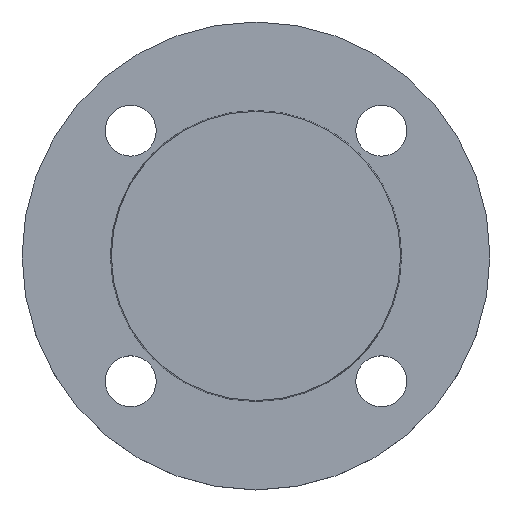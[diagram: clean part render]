
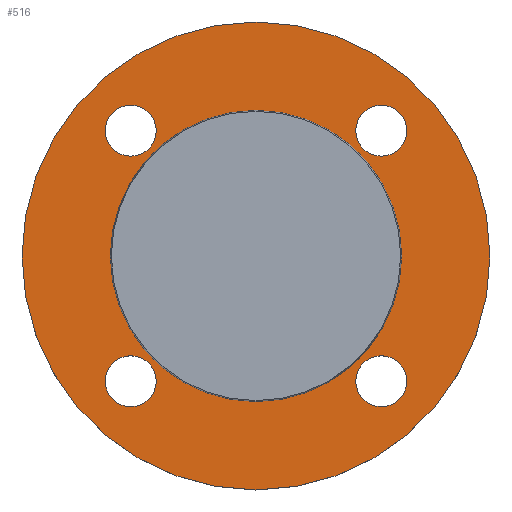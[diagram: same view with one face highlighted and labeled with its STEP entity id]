
A CAD part, top view. The second image highlights one B-rep face of the part: STEP entity #516.
In plain terms, the highlighted planar face has unit normal (0, 0, 1).
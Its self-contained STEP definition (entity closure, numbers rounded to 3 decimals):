
#9 = EDGE_CURVE ( 'NONE', #483, #456, #244, .T. ) ;
#19 = CARTESIAN_POINT ( 'NONE',  ( 53.194, 44.194, -2. ) ) ;
#20 = CARTESIAN_POINT ( 'NONE',  ( -51.353, 0., -2. ) ) ;
#22 = CARTESIAN_POINT ( 'NONE',  ( 51.353, 0., -2. ) ) ;
#24 = CARTESIAN_POINT ( 'NONE',  ( -35.194, 44.194, -2. ) ) ;
#27 = CARTESIAN_POINT ( 'NONE',  ( -35.194, -44.194, -2. ) ) ;
#35 = CARTESIAN_POINT ( 'NONE',  ( -53.194, 44.194, -2. ) ) ;
#43 = DIRECTION ( 'NONE',  ( -1., 0., 0. ) ) ;
#44 = CIRCLE ( 'NONE', #105, 51.353 ) ;
#45 = DIRECTION ( 'NONE',  ( 0., 0., -1. ) ) ;
#48 = CARTESIAN_POINT ( 'NONE',  ( 0., 0., -2. ) ) ;
#53 = EDGE_CURVE ( 'NONE', #246, #333, #390, .T. ) ;
#74 = DIRECTION ( 'NONE',  ( 1., 0., 0. ) ) ;
#77 = DIRECTION ( 'NONE',  ( 0., 0., -1. ) ) ;
#78 = CARTESIAN_POINT ( 'NONE',  ( -44.194, -44.194, -2. ) ) ;
#86 = DIRECTION ( 'NONE',  ( 1., 0., 0. ) ) ;
#87 = AXIS2_PLACEMENT_3D ( 'NONE', #214, #213, #212 ) ;
#88 = DIRECTION ( 'NONE',  ( 0., 0., -1. ) ) ;
#89 = CARTESIAN_POINT ( 'NONE',  ( 44.194, -44.194, -2. ) ) ;
#90 = DIRECTION ( 'NONE',  ( -1., 0., 0. ) ) ;
#92 = DIRECTION ( 'NONE',  ( 0., 0., -1. ) ) ;
#93 = CARTESIAN_POINT ( 'NONE',  ( 0., 0., -2. ) ) ;
#100 = CARTESIAN_POINT ( 'NONE',  ( 35.194, -44.194, -2. ) ) ;
#105 = AXIS2_PLACEMENT_3D ( 'NONE', #154, #149, #148 ) ;
#107 = AXIS2_PLACEMENT_3D ( 'NONE', #179, #178, #176 ) ;
#115 = DIRECTION ( 'NONE',  ( 1., 0., 0. ) ) ;
#116 = DIRECTION ( 'NONE',  ( 0., 0., -1. ) ) ;
#117 = CARTESIAN_POINT ( 'NONE',  ( -44.194, 44.194, -2. ) ) ;
#128 = CIRCLE ( 'NONE', #430, 9. ) ;
#141 = CIRCLE ( 'NONE', #236, 9. ) ;
#142 = DIRECTION ( 'NONE',  ( 1., 0., 0. ) ) ;
#144 = DIRECTION ( 'NONE',  ( 0., 0., -1. ) ) ;
#145 = EDGE_CURVE ( 'NONE', #257, #248, #330, .T. ) ;
#146 = CARTESIAN_POINT ( 'NONE',  ( 44.194, 44.194, -2. ) ) ;
#148 = DIRECTION ( 'NONE',  ( -1., 0., 0. ) ) ;
#149 = DIRECTION ( 'NONE',  ( 0., 0., -1. ) ) ;
#154 = CARTESIAN_POINT ( 'NONE',  ( 0., 0., -2. ) ) ;
#161 = EDGE_CURVE ( 'NONE', #474, #249, #141, .T. ) ;
#162 = CARTESIAN_POINT ( 'NONE',  ( 82.5, 0., -2. ) ) ;
#166 = CARTESIAN_POINT ( 'NONE',  ( 35.194, 44.194, -2. ) ) ;
#170 = CIRCLE ( 'NONE', #502, 9. ) ;
#171 = CARTESIAN_POINT ( 'NONE',  ( -53.194, -44.194, -2. ) ) ;
#173 = CARTESIAN_POINT ( 'NONE',  ( -82.5, 0., -2. ) ) ;
#174 = CARTESIAN_POINT ( 'NONE',  ( 53.194, -44.194, -2. ) ) ;
#176 = DIRECTION ( 'NONE',  ( 1., 0., 0. ) ) ;
#178 = DIRECTION ( 'NONE',  ( 0., 0., -1. ) ) ;
#179 = CARTESIAN_POINT ( 'NONE',  ( 44.194, 44.194, -2. ) ) ;
#189 = CIRCLE ( 'NONE', #397, 9. ) ;
#206 = DIRECTION ( 'NONE',  ( 1., 0., 0. ) ) ;
#207 = DIRECTION ( 'NONE',  ( 0., 0., -1. ) ) ;
#208 = CARTESIAN_POINT ( 'NONE',  ( -44.194, -44.194, -2. ) ) ;
#212 = DIRECTION ( 'NONE',  ( -1., 0., 0. ) ) ;
#213 = DIRECTION ( 'NONE',  ( 0., 0., -1. ) ) ;
#214 = CARTESIAN_POINT ( 'NONE',  ( 0., 0., -2. ) ) ;
#223 = EDGE_CURVE ( 'NONE', #492, #253, #420, .T. ) ;
#236 = AXIS2_PLACEMENT_3D ( 'NONE', #208, #207, #206 ) ;
#243 = DIRECTION ( 'NONE',  ( 1., 0., 0. ) ) ;
#244 = CIRCLE ( 'NONE', #419, 9. ) ;
#246 = VERTEX_POINT ( 'NONE', #174 ) ;
#247 = DIRECTION ( 'NONE',  ( 0., 0., -1. ) ) ;
#248 = VERTEX_POINT ( 'NONE', #173 ) ;
#249 = VERTEX_POINT ( 'NONE', #171 ) ;
#253 = VERTEX_POINT ( 'NONE', #166 ) ;
#257 = VERTEX_POINT ( 'NONE', #162 ) ;
#261 = CARTESIAN_POINT ( 'NONE',  ( 44.194, -44.194, -2. ) ) ;
#264 = EDGE_CURVE ( 'NONE', #487, #486, #44, .T. ) ;
#271 = EDGE_CURVE ( 'NONE', #253, #492, #170, .T. ) ;
#285 = DIRECTION ( 'NONE',  ( 1., 0., 0. ) ) ;
#287 = DIRECTION ( 'NONE',  ( 0., 0., -1. ) ) ;
#288 = CARTESIAN_POINT ( 'NONE',  ( -44.194, 44.194, -2. ) ) ;
#308 = EDGE_CURVE ( 'NONE', #456, #483, #189, .T. ) ;
#314 = EDGE_LOOP ( 'NONE', ( #455, #428 ) ) ;
#323 = EDGE_LOOP ( 'NONE', ( #436, #432 ) ) ;
#324 = EDGE_LOOP ( 'NONE', ( #437, #442 ) ) ;
#329 = EDGE_LOOP ( 'NONE', ( #435, #433 ) ) ;
#330 = CIRCLE ( 'NONE', #87, 82.5 ) ;
#331 = EDGE_LOOP ( 'NONE', ( #429, #431 ) ) ;
#333 = VERTEX_POINT ( 'NONE', #100 ) ;
#338 = EDGE_LOOP ( 'NONE', ( #443, #446 ) ) ;
#339 = CIRCLE ( 'NONE', #373, 9. ) ;
#344 = FACE_BOUND ( 'NONE', #331, .T. ) ;
#346 = EDGE_CURVE ( 'NONE', #248, #257, #402, .T. ) ;
#358 = EDGE_CURVE ( 'NONE', #333, #246, #128, .T. ) ;
#359 = FACE_BOUND ( 'NONE', #329, .T. ) ;
#365 = FACE_BOUND ( 'NONE', #314, .T. ) ;
#372 = DIRECTION ( 'NONE',  ( 1., 0., 0. ) ) ;
#373 = AXIS2_PLACEMENT_3D ( 'NONE', #78, #77, #74 ) ;
#374 = PLANE ( 'NONE',  #416 ) ;
#375 = FACE_BOUND ( 'NONE', #324, .T. ) ;
#380 = FACE_BOUND ( 'NONE', #323, .T. ) ;
#381 = DIRECTION ( 'NONE',  ( 0., 0., 1. ) ) ;
#382 = CARTESIAN_POINT ( 'NONE',  ( 51.353, 0., -2. ) ) ;
#389 = EDGE_CURVE ( 'NONE', #249, #474, #339, .T. ) ;
#390 = CIRCLE ( 'NONE', #394, 9. ) ;
#394 = AXIS2_PLACEMENT_3D ( 'NONE', #261, #247, #243 ) ;
#397 = AXIS2_PLACEMENT_3D ( 'NONE', #117, #116, #115 ) ;
#401 = FACE_OUTER_BOUND ( 'NONE', #338, .T. ) ;
#402 = CIRCLE ( 'NONE', #503, 82.5 ) ;
#416 = AXIS2_PLACEMENT_3D ( 'NONE', #382, #381, #372 ) ;
#419 = AXIS2_PLACEMENT_3D ( 'NONE', #288, #287, #285 ) ;
#420 = CIRCLE ( 'NONE', #107, 9. ) ;
#425 = EDGE_CURVE ( 'NONE', #486, #487, #462, .T. ) ;
#428 = ORIENTED_EDGE ( 'NONE', *, *, #358, .T. ) ;
#429 = ORIENTED_EDGE ( 'NONE', *, *, #161, .T. ) ;
#430 = AXIS2_PLACEMENT_3D ( 'NONE', #89, #88, #86 ) ;
#431 = ORIENTED_EDGE ( 'NONE', *, *, #389, .T. ) ;
#432 = ORIENTED_EDGE ( 'NONE', *, *, #271, .T. ) ;
#433 = ORIENTED_EDGE ( 'NONE', *, *, #308, .T. ) ;
#435 = ORIENTED_EDGE ( 'NONE', *, *, #9, .T. ) ;
#436 = ORIENTED_EDGE ( 'NONE', *, *, #223, .T. ) ;
#437 = ORIENTED_EDGE ( 'NONE', *, *, #264, .T. ) ;
#442 = ORIENTED_EDGE ( 'NONE', *, *, #425, .T. ) ;
#443 = ORIENTED_EDGE ( 'NONE', *, *, #145, .F. ) ;
#446 = ORIENTED_EDGE ( 'NONE', *, *, #346, .F. ) ;
#455 = ORIENTED_EDGE ( 'NONE', *, *, #53, .T. ) ;
#456 = VERTEX_POINT ( 'NONE', #35 ) ;
#462 = CIRCLE ( 'NONE', #490, 51.353 ) ;
#474 = VERTEX_POINT ( 'NONE', #27 ) ;
#483 = VERTEX_POINT ( 'NONE', #24 ) ;
#486 = VERTEX_POINT ( 'NONE', #22 ) ;
#487 = VERTEX_POINT ( 'NONE', #20 ) ;
#490 = AXIS2_PLACEMENT_3D ( 'NONE', #48, #45, #43 ) ;
#492 = VERTEX_POINT ( 'NONE', #19 ) ;
#502 = AXIS2_PLACEMENT_3D ( 'NONE', #146, #144, #142 ) ;
#503 = AXIS2_PLACEMENT_3D ( 'NONE', #93, #92, #90 ) ;
#516 = ADVANCED_FACE ( 'NONE', ( #365, #344, #359, #380, #375, #401 ), #374, .T. ) ;
